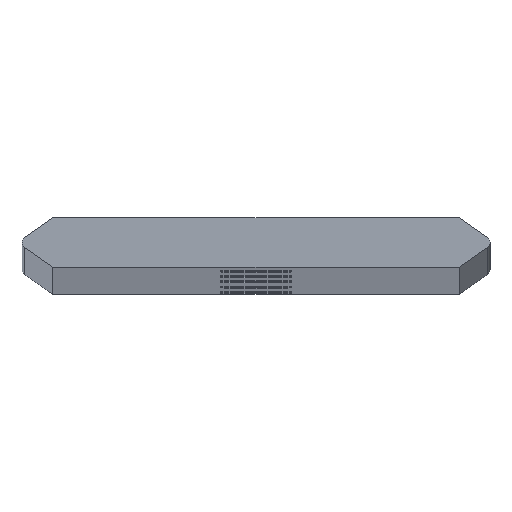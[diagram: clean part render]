
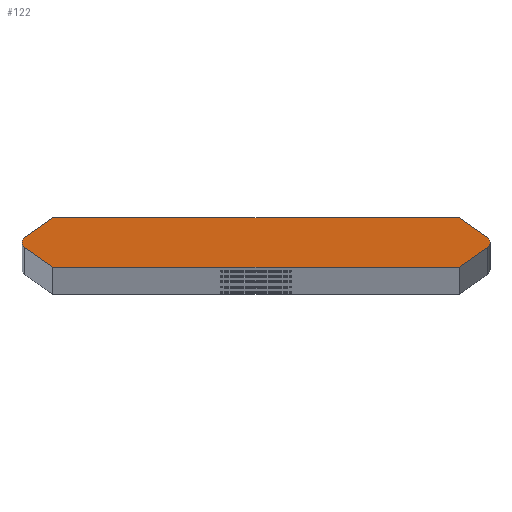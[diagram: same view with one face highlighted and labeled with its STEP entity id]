
A CAD part, top view. The second image highlights one B-rep face of the part: STEP entity #122.
In plain terms, the highlighted planar face has unit normal (0, 0, 1).
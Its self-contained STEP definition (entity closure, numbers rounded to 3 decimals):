
#122=ADVANCED_FACE('',(#226),#227,.T.);
#226=FACE_OUTER_BOUND('',#382,.T.);
#227=PLANE('',#383);
#382=EDGE_LOOP('',(#773,#774,#775,#776,#777,#778,#779,#780,#781,#782));
#383=AXIS2_PLACEMENT_3D('',#783,#784,#785);
#773=ORIENTED_EDGE('',*,*,#941,.T.);
#774=ORIENTED_EDGE('',*,*,#1078,.T.);
#775=ORIENTED_EDGE('',*,*,#1079,.F.);
#776=ORIENTED_EDGE('',*,*,#1080,.F.);
#777=ORIENTED_EDGE('',*,*,#1081,.F.);
#778=ORIENTED_EDGE('',*,*,#937,.T.);
#779=ORIENTED_EDGE('',*,*,#1082,.T.);
#780=ORIENTED_EDGE('',*,*,#1083,.F.);
#781=ORIENTED_EDGE('',*,*,#1084,.F.);
#782=ORIENTED_EDGE('',*,*,#1085,.F.);
#783=CARTESIAN_POINT('',(0.,0.,1976.0));
#784=DIRECTION('',(0.0,0.0,1.0));
#785=DIRECTION('',(1.0,0.0,0.0));
#937=EDGE_CURVE('',#1101,#1098,#1102,.T.);
#941=EDGE_CURVE('',#1109,#1106,#1110,.T.);
#1078=EDGE_CURVE('',#1106,#1336,#1338,.T.);
#1079=EDGE_CURVE('',#1339,#1336,#1340,.T.);
#1080=EDGE_CURVE('',#1341,#1339,#1342,.T.);
#1081=EDGE_CURVE('',#1101,#1341,#1343,.T.);
#1082=EDGE_CURVE('',#1098,#1344,#1345,.T.);
#1083=EDGE_CURVE('',#1346,#1344,#1347,.T.);
#1084=EDGE_CURVE('',#1348,#1346,#1349,.T.);
#1085=EDGE_CURVE('',#1109,#1348,#1350,.T.);
#1098=VERTEX_POINT('',#1368);
#1101=VERTEX_POINT('',#1372);
#1102=CIRCLE('',#1373,0.76);
#1106=VERTEX_POINT('',#1378);
#1109=VERTEX_POINT('',#1382);
#1110=CIRCLE('',#1383,0.76);
#1336=VERTEX_POINT('',#1654);
#1338=CIRCLE('',#1657,0.76);
#1339=VERTEX_POINT('',#1658);
#1340=LINE('',#1659,#1660);
#1341=VERTEX_POINT('',#1661);
#1342=LINE('',#1662,#1663);
#1343=LINE('',#1664,#1665);
#1344=VERTEX_POINT('',#1666);
#1345=CIRCLE('',#1667,0.76);
#1346=VERTEX_POINT('',#1668);
#1347=LINE('',#1669,#1670);
#1348=VERTEX_POINT('',#1671);
#1349=LINE('',#1672,#1673);
#1350=LINE('',#1674,#1675);
#1368=CARTESIAN_POINT('',(29.84,0.,1976.0));
#1372=CARTESIAN_POINT('',(29.519,-0.62,1976.0));
#1373=AXIS2_PLACEMENT_3D('',#1705,#1706,#1707);
#1378=CARTESIAN_POINT('',(-29.84,0.,1976.0));
#1382=CARTESIAN_POINT('',(-29.519,0.62,1976.0));
#1383=AXIS2_PLACEMENT_3D('',#1713,#1714,#1715);
#1654=CARTESIAN_POINT('',(-29.519,-0.62,1976.0));
#1657=AXIS2_PLACEMENT_3D('',#2032,#2033,#2034);
#1658=CARTESIAN_POINT('',(-25.921,-3.14,1976.0));
#1659=CARTESIAN_POINT('',(-30.405,0.,1976.0));
#1660=VECTOR('',#2035,1.0);
#1661=CARTESIAN_POINT('',(25.921,-3.14,1976.0));
#1662=CARTESIAN_POINT('',(25.921,-3.14,1976.0));
#1663=VECTOR('',#2036,1.0);
#1664=CARTESIAN_POINT('',(30.405,0.0,1976.0));
#1665=VECTOR('',#2037,1.0);
#1666=CARTESIAN_POINT('',(29.519,0.62,1976.0));
#1667=AXIS2_PLACEMENT_3D('',#2038,#2039,#2040);
#1668=CARTESIAN_POINT('',(25.921,3.14,1976.0));
#1669=CARTESIAN_POINT('',(30.405,0.0,1976.0));
#1670=VECTOR('',#2041,1.0);
#1671=CARTESIAN_POINT('',(-25.921,3.14,1976.0));
#1672=CARTESIAN_POINT('',(-25.921,3.14,1976.0));
#1673=VECTOR('',#2042,1.0);
#1674=CARTESIAN_POINT('',(-30.405,0.,1976.0));
#1675=VECTOR('',#2043,1.0);
#1705=CARTESIAN_POINT('',(29.08,0.0,1976.0));
#1706=DIRECTION('',(0.0,0.0,1.0));
#1707=DIRECTION('',(1.0,0.0,0.0));
#1713=CARTESIAN_POINT('',(-29.08,0.,1976.0));
#1714=DIRECTION('',(0.0,0.0,1.0));
#1715=DIRECTION('',(-1.0,0.,0.0));
#2032=CARTESIAN_POINT('',(-29.08,0.,1976.0));
#2033=DIRECTION('',(0.0,0.0,1.0));
#2034=DIRECTION('',(-1.0,0.,0.0));
#2035=DIRECTION('',(-0.819,0.574,0.0));
#2036=DIRECTION('',(-1.0,0.,0.0));
#2037=DIRECTION('',(-0.819,-0.574,0.0));
#2038=CARTESIAN_POINT('',(29.08,0.0,1976.0));
#2039=DIRECTION('',(0.0,0.0,1.0));
#2040=DIRECTION('',(1.0,0.0,0.0));
#2041=DIRECTION('',(0.819,-0.574,0.0));
#2042=DIRECTION('',(1.0,0.,0.0));
#2043=DIRECTION('',(0.819,0.574,0.0));
